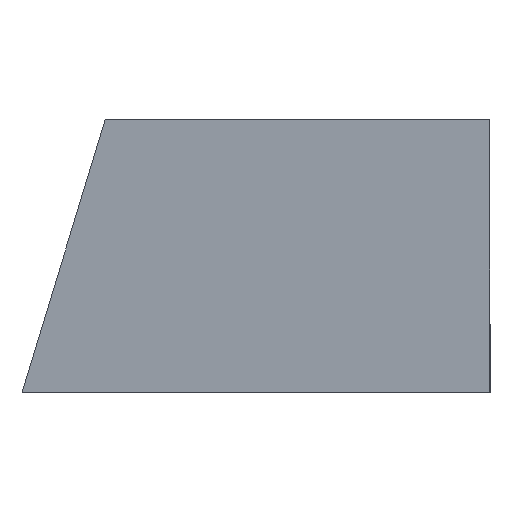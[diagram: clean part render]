
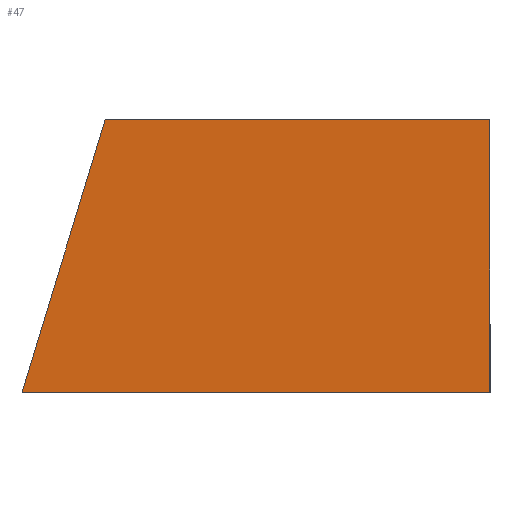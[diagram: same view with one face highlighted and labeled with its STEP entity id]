
A CAD part, top view. The second image highlights one B-rep face of the part: STEP entity #47.
In plain terms, the highlighted planar face has unit normal (-0.082, 0, 0.997).
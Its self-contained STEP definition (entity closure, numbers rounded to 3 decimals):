
#47=ADVANCED_FACE('',(#59),#53,.F.);
#53=PLANE('',#140);
#59=FACE_OUTER_BOUND('',#65,.T.);
#65=EDGE_LOOP('',(#86,#87,#88,#89));
#86=ORIENTED_EDGE('',*,*,#98,.F.);
#87=ORIENTED_EDGE('',*,*,#108,.F.);
#88=ORIENTED_EDGE('',*,*,#105,.F.);
#89=ORIENTED_EDGE('',*,*,#102,.F.);
#90=VERTEX_POINT('',#169);
#91=VERTEX_POINT('',#170);
#94=VERTEX_POINT('',#178);
#96=VERTEX_POINT('',#184);
#98=EDGE_CURVE('',#90,#91,#110,.T.);
#102=EDGE_CURVE('',#91,#94,#114,.T.);
#105=EDGE_CURVE('',#94,#96,#117,.T.);
#108=EDGE_CURVE('',#96,#90,#120,.T.);
#110=LINE('',#168,#122);
#114=LINE('',#177,#126);
#117=LINE('',#183,#129);
#120=LINE('',#189,#132);
#122=VECTOR('',#143,1.);
#126=VECTOR('',#149,1.);
#129=VECTOR('',#154,1.);
#132=VECTOR('',#159,1.);
#140=AXIS2_PLACEMENT_3D('',#193,#165,#166);
#143=DIRECTION('',(0.997,0.,0.082));
#149=DIRECTION('',(0.,-1.,0.));
#154=DIRECTION('',(-0.997,0.,-0.082));
#159=DIRECTION('',(0.292,0.956,0.024));
#165=DIRECTION('',(0.082,0.,-0.997));
#166=DIRECTION('',(-0.997,0.,-0.082));
#168=CARTESIAN_POINT('',(-325.195,1935.,-113.059));
#169=CARTESIAN_POINT('',(-325.195,1935.,-113.059));
#170=CARTESIAN_POINT('',(-99.959,1935.,-94.491));
#177=CARTESIAN_POINT('',(-99.959,1935.,-94.491));
#178=CARTESIAN_POINT('',(-99.959,1775.,-94.491));
#183=CARTESIAN_POINT('',(-99.959,1775.,-94.491));
#184=CARTESIAN_POINT('',(-374.03,1775.,-117.085));
#189=CARTESIAN_POINT('',(-374.03,1775.,-117.085));
#193=CARTESIAN_POINT('',(7.062,0.,-85.669));
